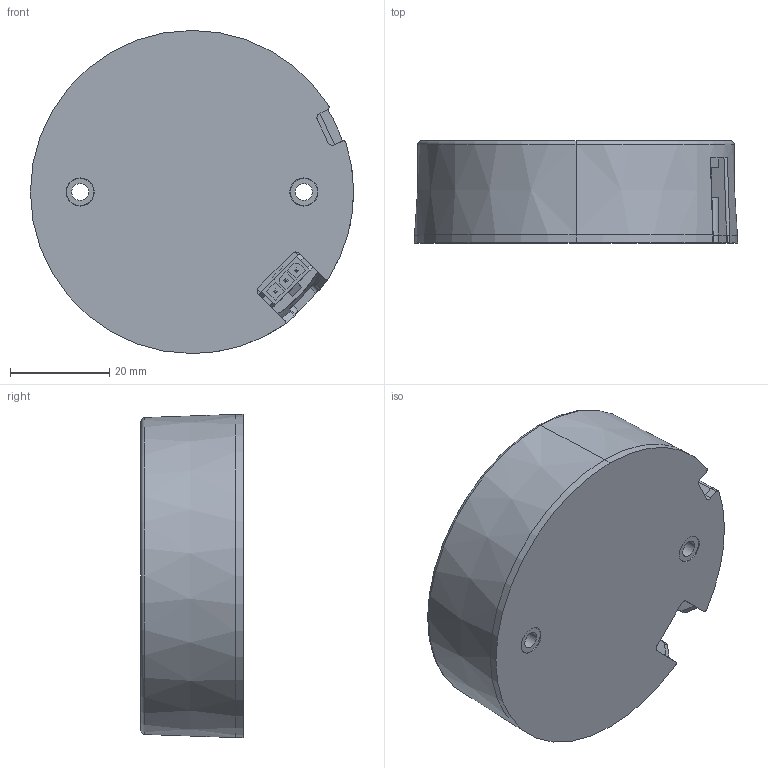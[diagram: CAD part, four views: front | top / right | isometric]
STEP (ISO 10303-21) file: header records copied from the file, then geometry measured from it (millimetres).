
FILE_DESCRIPTION (( 'STEP AP214' ), '1' );
FILE_NAME ('TWM2_CASE-ASSY_02SEP2022.STEP', '2022-09-06T08:41:23', ( '' ), ( '' ), 'SwSTEP 2.0', 'SolidWorks 2018', '' );
FILE_SCHEMA (( 'AUTOMOTIVE_DESIGN' ));
Length unit declared in the file: millimetre
Products named in the file (1): TWM2_CASE-ASSY_02SEP2022
Bounding box: 64.99 x 20.54 x 65 mm (x, y, z)
Volume: 21512.2 mm3; surface area: 35016.4 mm2
Topology: 71 solids, 71 shells, 2929 faces, 7683 edges, 4960 vertices
Faces by surface type: plane 2005, cylinder 684, cone 138, bspline 60, torus 40, sphere 2
Entity records: 123519 total; most frequent: CARTESIAN_POINT 17401, ORIENTED_EDGE 15362, DIRECTION 14644, EDGE_CURVE 7681, LINE 5706, VECTOR 5706, VERTEX_POINT 4960, AXIS2_PLACEMENT_3D 4469
